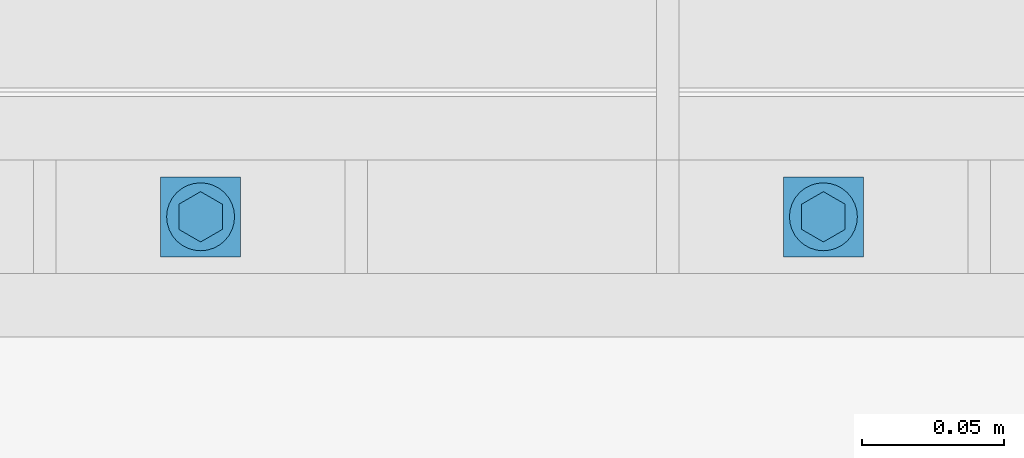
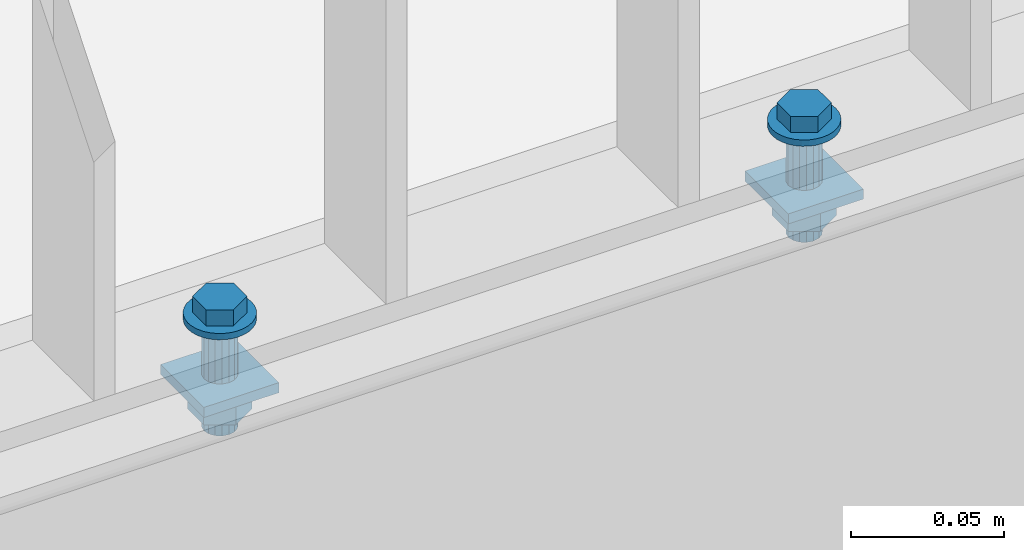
# One storey, part 101 of 145: 2 mechanical fasteners.
"""IFC2X3 building model written with IfcOpenShell, lengths in millimetres."""

from ifc_helpers import new_model, entity, si_unit, converted_unit, origin_with_axes, place, context, project, spatial, faceted_brep, element, save


model = new_model("IFC2X3")

# Units and contexts
model_context = context("Model", 3, precision=1e-09, world=origin_with_axes())
ifc_project = project(units=[si_unit("LENGTHUNIT", "METRE", prefix="MILLI"), si_unit("AREAUNIT", "SQUARE_METRE"), si_unit("VOLUMEUNIT", "CUBIC_METRE"), converted_unit("PLANEANGLEUNIT", "DEGREE", entity("IfcPlaneAngleMeasure", 0.01745329), si_unit("PLANEANGLEUNIT", "RADIAN"), dimensions=[0, 0, 0, 0, 0, 0, 0])], contexts=[model_context])

# Site, building, storey
site_placement = place(None, origin_with_axes())
site = spatial("IfcSite", under=ifc_project, at=site_placement, Name="BZ1 Grund- und Mittelschule 85716 Unterschlei?heim", CompositionType="ELEMENT")
building_placement = place(site_placement, origin_with_axes())
building = spatial("IfcBuilding", under=site, at=building_placement, Name="Struktur 1", CompositionType="ELEMENT")
storey_placement = place(building_placement, origin_with_axes())
storey = spatial("IfcBuildingStorey", under=building, at=storey_placement, Name="Default Storey", CompositionType="ELEMENT", Elevation=0.0)

# Mechanical fasteners
mechanical_fastener_1_placement = place(None, origin_with_axes())
element("IfcMechanicalFastener", 1, at=mechanical_fastener_1_placement, inside=storey, ObjectType="-", NominalDiameter=12.0, NominalLength=45.0, context=model_context, shape_type="Brep", body=[
    faceted_brep([(20541.545893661, -3162.502, 1624.136364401), (20541.545893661, -3162.502, 1621.636364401), (20541.776470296, -3164.843083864, 1621.636364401), (20541.776470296, -3164.843083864, 1624.136364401), (20542.459339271, -3167.094201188, 1621.636364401), (20542.459339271, -3167.094201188, 1624.136364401), (20543.568258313, -3169.168842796, 1621.636364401), (20543.568258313, -3169.168842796, 1624.136364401), (20545.060612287, -3170.987281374, 1621.636364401), (20545.060612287, -3170.987281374, 1624.136364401), (20546.879050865, -3172.479635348, 1621.636364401), (20546.879050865, -3172.479635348, 1624.136364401), (20548.953692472, -3173.58855439, 1621.636364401), (20548.953692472, -3173.58855439, 1624.136364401), (20551.204809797, -3174.271423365, 1621.636364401), (20551.204809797, -3174.271423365, 1624.136364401), (20553.545893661, -3174.502, 1621.636364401), (20553.545893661, -3174.502, 1624.136364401), (20555.886977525, -3174.271423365, 1621.636364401), (20555.886977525, -3174.271423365, 1624.136364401), (20558.138094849, -3173.58855439, 1621.636364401), (20558.138094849, -3173.58855439, 1624.136364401), (20560.212736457, -3172.479635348, 1621.636364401), (20560.212736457, -3172.479635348, 1624.136364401), (20562.031175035, -3170.987281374, 1621.636364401), (20562.031175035, -3170.987281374, 1624.136364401), (20563.523529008, -3169.168842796, 1621.636364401), (20563.523529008, -3169.168842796, 1624.136364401), (20564.632448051, -3167.094201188, 1621.636364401), (20564.632448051, -3167.094201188, 1624.136364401), (20565.315317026, -3164.843083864, 1621.636364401), (20565.315317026, -3164.843083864, 1624.136364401), (20565.545893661, -3162.502, 1621.636364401), (20565.545893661, -3162.502, 1624.136364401), (20565.315317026, -3160.160916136, 1621.636364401), (20565.315317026, -3160.160916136, 1624.136364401), (20564.632448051, -3157.909798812, 1621.636364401), (20564.632448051, -3157.909798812, 1624.136364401), (20563.523529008, -3155.835157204, 1621.636364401), (20563.523529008, -3155.835157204, 1624.136364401), (20562.031175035, -3154.016718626, 1621.636364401), (20562.031175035, -3154.016718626, 1624.136364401), (20560.212736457, -3152.524364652, 1621.636364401), (20560.212736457, -3152.524364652, 1624.136364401), (20558.138094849, -3151.41544561, 1621.636364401), (20558.138094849, -3151.41544561, 1624.136364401), (20555.886977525, -3150.732576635, 1621.636364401), (20555.886977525, -3150.732576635, 1624.136364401), (20553.545893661, -3150.502, 1621.636364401), (20553.545893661, -3150.502, 1624.136364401), (20551.204809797, -3150.732576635, 1621.636364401), (20551.204809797, -3150.732576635, 1624.136364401), (20548.953692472, -3151.41544561, 1621.636364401), (20548.953692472, -3151.41544561, 1624.136364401), (20546.879050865, -3152.524364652, 1621.636364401), (20546.879050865, -3152.524364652, 1624.136364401), (20545.060612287, -3154.016718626, 1621.636364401), (20545.060612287, -3154.016718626, 1624.136364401), (20543.568258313, -3155.835157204, 1621.636364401), (20543.568258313, -3155.835157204, 1624.136364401), (20542.459339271, -3157.909798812, 1621.636364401), (20542.459339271, -3157.909798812, 1624.136364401), (20541.776470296, -3160.160916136, 1621.636364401), (20541.776470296, -3160.160916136, 1624.136364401)], [[[0, 1, 2, 3]], [[3, 2, 4, 5]], [[5, 4, 6, 7]], [[7, 6, 8, 9]], [[9, 8, 10, 11]], [[11, 10, 12, 13]], [[13, 12, 14, 15]], [[15, 14, 16, 17]], [[17, 16, 18, 19]], [[19, 18, 20, 21]], [[21, 20, 22, 23]], [[23, 22, 24, 25]], [[25, 24, 26, 27]], [[27, 26, 28, 29]], [[29, 28, 30, 31]], [[31, 30, 32, 33]], [[33, 32, 34, 35]], [[35, 34, 36, 37]], [[37, 36, 38, 39]], [[39, 38, 40, 41]], [[41, 40, 42, 43]], [[43, 42, 44, 45]], [[45, 44, 46, 47]], [[47, 46, 48, 49]], [[49, 48, 50, 51]], [[51, 50, 52, 53]], [[53, 52, 54, 55]], [[55, 54, 56, 57]], [[57, 56, 58, 59]], [[59, 58, 60, 61]], [[61, 60, 62, 63]], [[63, 62, 1, 0]], [[0, 3, 5, 7, 9, 11, 13, 15, 17, 19, 21, 23, 25, 27, 29, 31, 33, 35, 37, 39, 41, 43, 45, 47, 49, 51, 53, 55, 57, 59, 61, 63]], [[1, 62, 60, 58, 56, 54, 52, 50, 48, 46, 44, 42, 40, 38, 36, 34, 32, 30, 28, 26, 24, 22, 20, 18, 16, 14, 12, 10, 8, 6, 4, 2]]]),
    faceted_brep([(20561.240529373, -3166.9445, 1624.136364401), (20561.240529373, -3166.9445, 1630.536364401), (20553.545893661, -3171.387, 1630.536364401), (20553.545893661, -3171.387, 1624.136364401), (20545.851257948, -3166.9445, 1630.536364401), (20545.851257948, -3166.9445, 1624.136364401), (20545.851257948, -3158.0595, 1630.536364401), (20545.851257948, -3158.0595, 1624.136364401), (20553.545893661, -3153.617, 1630.536364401), (20553.545893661, -3153.617, 1624.136364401), (20561.240529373, -3158.0595, 1630.536364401), (20561.240529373, -3158.0595, 1624.136364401)], [[[0, 1, 2, 3]], [[3, 2, 4, 5]], [[5, 4, 6, 7]], [[7, 6, 8, 9]], [[9, 8, 10, 11]], [[11, 10, 1, 0]], [[4, 2, 1, 10, 8, 6]], [[0, 3, 5, 7, 9, 11]]]),
    faceted_brep([(20547.545893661, -3162.502, 1621.636364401), (20547.545893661, -3162.502, 1599.833658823), (20548.002616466, -3164.798100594, 1599.833658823), (20548.002616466, -3164.798100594, 1621.636364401), (20549.303252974, -3166.744640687, 1599.833658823), (20549.303252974, -3166.744640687, 1621.636364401), (20551.249793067, -3168.045277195, 1599.833658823), (20551.249793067, -3168.045277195, 1621.636364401), (20553.545893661, -3168.502, 1599.833658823), (20553.545893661, -3168.502, 1621.636364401), (20555.841994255, -3168.045277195, 1599.833658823), (20555.841994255, -3168.045277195, 1621.636364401), (20557.788534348, -3166.744640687, 1599.833658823), (20557.788534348, -3166.744640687, 1621.636364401), (20559.089170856, -3164.798100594, 1599.833658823), (20559.089170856, -3164.798100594, 1621.636364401), (20559.545893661, -3162.502, 1599.833658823), (20559.545893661, -3162.502, 1621.636364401), (20559.089170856, -3160.205899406, 1599.833658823), (20559.089170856, -3160.205899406, 1621.636364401), (20557.788534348, -3158.259359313, 1599.833658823), (20557.788534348, -3158.259359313, 1621.636364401), (20555.841994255, -3156.958722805, 1599.833658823), (20555.841994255, -3156.958722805, 1621.636364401), (20553.545893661, -3156.502, 1599.833658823), (20553.545893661, -3156.502, 1621.636364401), (20551.249793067, -3156.958722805, 1599.833658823), (20551.249793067, -3156.958722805, 1621.636364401), (20549.303252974, -3158.259359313, 1599.833658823), (20549.303252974, -3158.259359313, 1621.636364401), (20548.002616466, -3160.205899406, 1599.833658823), (20548.002616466, -3160.205899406, 1621.636364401)], [[[0, 1, 2, 3]], [[3, 2, 4, 5]], [[5, 4, 6, 7]], [[7, 6, 8, 9]], [[9, 8, 10, 11]], [[11, 10, 12, 13]], [[13, 12, 14, 15]], [[15, 14, 16, 17]], [[17, 16, 18, 19]], [[19, 18, 20, 21]], [[21, 20, 22, 23]], [[23, 22, 24, 25]], [[25, 24, 26, 27]], [[27, 26, 28, 29]], [[29, 28, 30, 31]], [[31, 30, 1, 0]], [[0, 3, 5, 7, 9, 11, 13, 15, 17, 19, 21, 23, 25, 27, 29, 31]], [[1, 30, 28, 26, 24, 22, 20, 18, 16, 14, 12, 10, 8, 6, 4, 2]]]),
    faceted_brep([(20567.688029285, -3176.644135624, 1595.833658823), (20567.688029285, -3176.644135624, 1599.833658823), (20539.403758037, -3176.644135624, 1599.833658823), (20539.403758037, -3176.644135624, 1595.833658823), (20539.403758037, -3148.359864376, 1599.833658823), (20539.403758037, -3148.359864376, 1595.833658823), (20567.688029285, -3148.359864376, 1599.833658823), (20567.688029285, -3148.359864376, 1595.833658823)], [[[0, 1, 2, 3]], [[3, 2, 4, 5]], [[5, 4, 6, 7]], [[7, 6, 1, 0]], [[4, 2, 1, 6]], [[0, 3, 5, 7]]]),
    faceted_brep([(20562.682461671, -3167.777, 1585.833658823), (20562.682461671, -3167.777, 1595.833658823), (20553.545893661, -3173.052, 1595.833658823), (20553.545893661, -3173.052, 1585.833658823), (20544.409325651, -3167.777, 1595.833658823), (20544.409325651, -3167.777, 1585.833658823), (20544.409325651, -3157.227, 1595.833658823), (20544.409325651, -3157.227, 1585.833658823), (20553.545893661, -3151.952, 1595.833658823), (20553.545893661, -3151.952, 1585.833658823), (20562.682461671, -3157.227, 1595.833658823), (20562.682461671, -3157.227, 1585.833658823)], [[[0, 1, 2, 3]], [[3, 2, 4, 5]], [[5, 4, 6, 7]], [[7, 6, 8, 9]], [[9, 8, 10, 11]], [[11, 10, 1, 0]], [[4, 2, 1, 10, 8, 6]], [[0, 3, 5, 7, 9, 11]]]),
    faceted_brep([(20547.545893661, -3162.502, 1585.833658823), (20547.545893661, -3162.502, 1579.136364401), (20548.002616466, -3164.798100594, 1579.136364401), (20548.002616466, -3164.798100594, 1585.833658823), (20549.303252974, -3166.744640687, 1579.136364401), (20549.303252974, -3166.744640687, 1585.833658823), (20551.249793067, -3168.045277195, 1579.136364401), (20551.249793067, -3168.045277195, 1585.833658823), (20553.545893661, -3168.502, 1579.136364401), (20553.545893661, -3168.502, 1585.833658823), (20555.841994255, -3168.045277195, 1579.136364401), (20555.841994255, -3168.045277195, 1585.833658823), (20557.788534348, -3166.744640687, 1579.136364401), (20557.788534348, -3166.744640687, 1585.833658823), (20559.089170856, -3164.798100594, 1579.136364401), (20559.089170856, -3164.798100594, 1585.833658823), (20559.545893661, -3162.502, 1579.136364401), (20559.545893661, -3162.502, 1585.833658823), (20559.089170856, -3160.205899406, 1579.136364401), (20559.089170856, -3160.205899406, 1585.833658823), (20557.788534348, -3158.259359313, 1579.136364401), (20557.788534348, -3158.259359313, 1585.833658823), (20555.841994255, -3156.958722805, 1579.136364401), (20555.841994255, -3156.958722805, 1585.833658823), (20553.545893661, -3156.502, 1579.136364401), (20553.545893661, -3156.502, 1585.833658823), (20551.249793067, -3156.958722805, 1579.136364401), (20551.249793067, -3156.958722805, 1585.833658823), (20549.303252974, -3158.259359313, 1579.136364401), (20549.303252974, -3158.259359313, 1585.833658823), (20548.002616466, -3160.205899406, 1579.136364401), (20548.002616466, -3160.205899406, 1585.833658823)], [[[0, 1, 2, 3]], [[3, 2, 4, 5]], [[5, 4, 6, 7]], [[7, 6, 8, 9]], [[9, 8, 10, 11]], [[11, 10, 12, 13]], [[13, 12, 14, 15]], [[15, 14, 16, 17]], [[17, 16, 18, 19]], [[19, 18, 20, 21]], [[21, 20, 22, 23]], [[23, 22, 24, 25]], [[25, 24, 26, 27]], [[27, 26, 28, 29]], [[29, 28, 30, 31]], [[31, 30, 1, 0]], [[0, 3, 5, 7, 9, 11, 13, 15, 17, 19, 21, 23, 25, 27, 29, 31]], [[1, 30, 28, 26, 24, 22, 20, 18, 16, 14, 12, 10, 8, 6, 4, 2]]]),
])
mechanical_fastener_2_placement = place(None, origin_with_axes())
element("IfcMechanicalFastener", 2, at=mechanical_fastener_2_placement, inside=storey, ObjectType="-", NominalDiameter=12.0, NominalLength=45.0, context=model_context, shape_type="Brep", body=[
    faceted_brep([(20761.545893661, -3162.502, 1624.136364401), (20761.545893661, -3162.502, 1621.636364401), (20761.776470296, -3164.843083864, 1621.636364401), (20761.776470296, -3164.843083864, 1624.136364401), (20762.459339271, -3167.094201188, 1621.636364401), (20762.459339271, -3167.094201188, 1624.136364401), (20763.568258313, -3169.168842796, 1621.636364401), (20763.568258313, -3169.168842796, 1624.136364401), (20765.060612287, -3170.987281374, 1621.636364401), (20765.060612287, -3170.987281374, 1624.136364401), (20766.879050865, -3172.479635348, 1621.636364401), (20766.879050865, -3172.479635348, 1624.136364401), (20768.953692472, -3173.58855439, 1621.636364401), (20768.953692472, -3173.58855439, 1624.136364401), (20771.204809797, -3174.271423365, 1621.636364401), (20771.204809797, -3174.271423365, 1624.136364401), (20773.545893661, -3174.502, 1621.636364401), (20773.545893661, -3174.502, 1624.136364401), (20775.886977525, -3174.271423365, 1621.636364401), (20775.886977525, -3174.271423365, 1624.136364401), (20778.138094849, -3173.58855439, 1621.636364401), (20778.138094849, -3173.58855439, 1624.136364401), (20780.212736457, -3172.479635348, 1621.636364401), (20780.212736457, -3172.479635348, 1624.136364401), (20782.031175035, -3170.987281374, 1621.636364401), (20782.031175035, -3170.987281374, 1624.136364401), (20783.523529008, -3169.168842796, 1621.636364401), (20783.523529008, -3169.168842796, 1624.136364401), (20784.632448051, -3167.094201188, 1621.636364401), (20784.632448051, -3167.094201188, 1624.136364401), (20785.315317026, -3164.843083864, 1621.636364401), (20785.315317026, -3164.843083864, 1624.136364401), (20785.545893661, -3162.502, 1621.636364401), (20785.545893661, -3162.502, 1624.136364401), (20785.315317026, -3160.160916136, 1621.636364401), (20785.315317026, -3160.160916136, 1624.136364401), (20784.632448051, -3157.909798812, 1621.636364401), (20784.632448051, -3157.909798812, 1624.136364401), (20783.523529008, -3155.835157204, 1621.636364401), (20783.523529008, -3155.835157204, 1624.136364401), (20782.031175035, -3154.016718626, 1621.636364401), (20782.031175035, -3154.016718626, 1624.136364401), (20780.212736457, -3152.524364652, 1621.636364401), (20780.212736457, -3152.524364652, 1624.136364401), (20778.138094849, -3151.41544561, 1621.636364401), (20778.138094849, -3151.41544561, 1624.136364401), (20775.886977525, -3150.732576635, 1621.636364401), (20775.886977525, -3150.732576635, 1624.136364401), (20773.545893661, -3150.502, 1621.636364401), (20773.545893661, -3150.502, 1624.136364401), (20771.204809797, -3150.732576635, 1621.636364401), (20771.204809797, -3150.732576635, 1624.136364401), (20768.953692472, -3151.41544561, 1621.636364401), (20768.953692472, -3151.41544561, 1624.136364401), (20766.879050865, -3152.524364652, 1621.636364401), (20766.879050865, -3152.524364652, 1624.136364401), (20765.060612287, -3154.016718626, 1621.636364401), (20765.060612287, -3154.016718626, 1624.136364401), (20763.568258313, -3155.835157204, 1621.636364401), (20763.568258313, -3155.835157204, 1624.136364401), (20762.459339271, -3157.909798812, 1621.636364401), (20762.459339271, -3157.909798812, 1624.136364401), (20761.776470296, -3160.160916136, 1621.636364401), (20761.776470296, -3160.160916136, 1624.136364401)], [[[0, 1, 2, 3]], [[3, 2, 4, 5]], [[5, 4, 6, 7]], [[7, 6, 8, 9]], [[9, 8, 10, 11]], [[11, 10, 12, 13]], [[13, 12, 14, 15]], [[15, 14, 16, 17]], [[17, 16, 18, 19]], [[19, 18, 20, 21]], [[21, 20, 22, 23]], [[23, 22, 24, 25]], [[25, 24, 26, 27]], [[27, 26, 28, 29]], [[29, 28, 30, 31]], [[31, 30, 32, 33]], [[33, 32, 34, 35]], [[35, 34, 36, 37]], [[37, 36, 38, 39]], [[39, 38, 40, 41]], [[41, 40, 42, 43]], [[43, 42, 44, 45]], [[45, 44, 46, 47]], [[47, 46, 48, 49]], [[49, 48, 50, 51]], [[51, 50, 52, 53]], [[53, 52, 54, 55]], [[55, 54, 56, 57]], [[57, 56, 58, 59]], [[59, 58, 60, 61]], [[61, 60, 62, 63]], [[63, 62, 1, 0]], [[0, 3, 5, 7, 9, 11, 13, 15, 17, 19, 21, 23, 25, 27, 29, 31, 33, 35, 37, 39, 41, 43, 45, 47, 49, 51, 53, 55, 57, 59, 61, 63]], [[1, 62, 60, 58, 56, 54, 52, 50, 48, 46, 44, 42, 40, 38, 36, 34, 32, 30, 28, 26, 24, 22, 20, 18, 16, 14, 12, 10, 8, 6, 4, 2]]]),
    faceted_brep([(20781.240529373, -3166.9445, 1624.136364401), (20781.240529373, -3166.9445, 1630.536364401), (20773.545893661, -3171.387, 1630.536364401), (20773.545893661, -3171.387, 1624.136364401), (20765.851257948, -3166.9445, 1630.536364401), (20765.851257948, -3166.9445, 1624.136364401), (20765.851257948, -3158.0595, 1630.536364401), (20765.851257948, -3158.0595, 1624.136364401), (20773.545893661, -3153.617, 1630.536364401), (20773.545893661, -3153.617, 1624.136364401), (20781.240529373, -3158.0595, 1630.536364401), (20781.240529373, -3158.0595, 1624.136364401)], [[[0, 1, 2, 3]], [[3, 2, 4, 5]], [[5, 4, 6, 7]], [[7, 6, 8, 9]], [[9, 8, 10, 11]], [[11, 10, 1, 0]], [[4, 2, 1, 10, 8, 6]], [[0, 3, 5, 7, 9, 11]]]),
    faceted_brep([(20767.545893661, -3162.502, 1621.636364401), (20767.545893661, -3162.502, 1599.833658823), (20768.002616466, -3164.798100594, 1599.833658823), (20768.002616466, -3164.798100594, 1621.636364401), (20769.303252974, -3166.744640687, 1599.833658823), (20769.303252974, -3166.744640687, 1621.636364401), (20771.249793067, -3168.045277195, 1599.833658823), (20771.249793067, -3168.045277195, 1621.636364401), (20773.545893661, -3168.502, 1599.833658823), (20773.545893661, -3168.502, 1621.636364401), (20775.841994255, -3168.045277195, 1599.833658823), (20775.841994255, -3168.045277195, 1621.636364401), (20777.788534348, -3166.744640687, 1599.833658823), (20777.788534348, -3166.744640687, 1621.636364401), (20779.089170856, -3164.798100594, 1599.833658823), (20779.089170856, -3164.798100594, 1621.636364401), (20779.545893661, -3162.502, 1599.833658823), (20779.545893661, -3162.502, 1621.636364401), (20779.089170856, -3160.205899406, 1599.833658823), (20779.089170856, -3160.205899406, 1621.636364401), (20777.788534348, -3158.259359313, 1599.833658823), (20777.788534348, -3158.259359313, 1621.636364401), (20775.841994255, -3156.958722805, 1599.833658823), (20775.841994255, -3156.958722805, 1621.636364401), (20773.545893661, -3156.502, 1599.833658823), (20773.545893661, -3156.502, 1621.636364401), (20771.249793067, -3156.958722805, 1599.833658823), (20771.249793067, -3156.958722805, 1621.636364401), (20769.303252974, -3158.259359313, 1599.833658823), (20769.303252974, -3158.259359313, 1621.636364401), (20768.002616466, -3160.205899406, 1599.833658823), (20768.002616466, -3160.205899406, 1621.636364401)], [[[0, 1, 2, 3]], [[3, 2, 4, 5]], [[5, 4, 6, 7]], [[7, 6, 8, 9]], [[9, 8, 10, 11]], [[11, 10, 12, 13]], [[13, 12, 14, 15]], [[15, 14, 16, 17]], [[17, 16, 18, 19]], [[19, 18, 20, 21]], [[21, 20, 22, 23]], [[23, 22, 24, 25]], [[25, 24, 26, 27]], [[27, 26, 28, 29]], [[29, 28, 30, 31]], [[31, 30, 1, 0]], [[0, 3, 5, 7, 9, 11, 13, 15, 17, 19, 21, 23, 25, 27, 29, 31]], [[1, 30, 28, 26, 24, 22, 20, 18, 16, 14, 12, 10, 8, 6, 4, 2]]]),
    faceted_brep([(20787.688029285, -3176.644135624, 1595.833658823), (20787.688029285, -3176.644135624, 1599.833658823), (20759.403758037, -3176.644135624, 1599.833658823), (20759.403758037, -3176.644135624, 1595.833658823), (20759.403758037, -3148.359864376, 1599.833658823), (20759.403758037, -3148.359864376, 1595.833658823), (20787.688029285, -3148.359864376, 1599.833658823), (20787.688029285, -3148.359864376, 1595.833658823)], [[[0, 1, 2, 3]], [[3, 2, 4, 5]], [[5, 4, 6, 7]], [[7, 6, 1, 0]], [[4, 2, 1, 6]], [[0, 3, 5, 7]]]),
    faceted_brep([(20782.682461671, -3167.777, 1585.833658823), (20782.682461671, -3167.777, 1595.833658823), (20773.545893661, -3173.052, 1595.833658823), (20773.545893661, -3173.052, 1585.833658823), (20764.409325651, -3167.777, 1595.833658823), (20764.409325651, -3167.777, 1585.833658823), (20764.409325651, -3157.227, 1595.833658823), (20764.409325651, -3157.227, 1585.833658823), (20773.545893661, -3151.952, 1595.833658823), (20773.545893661, -3151.952, 1585.833658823), (20782.682461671, -3157.227, 1595.833658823), (20782.682461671, -3157.227, 1585.833658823)], [[[0, 1, 2, 3]], [[3, 2, 4, 5]], [[5, 4, 6, 7]], [[7, 6, 8, 9]], [[9, 8, 10, 11]], [[11, 10, 1, 0]], [[4, 2, 1, 10, 8, 6]], [[0, 3, 5, 7, 9, 11]]]),
    faceted_brep([(20767.545893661, -3162.502, 1585.833658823), (20767.545893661, -3162.502, 1579.136364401), (20768.002616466, -3164.798100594, 1579.136364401), (20768.002616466, -3164.798100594, 1585.833658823), (20769.303252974, -3166.744640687, 1579.136364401), (20769.303252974, -3166.744640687, 1585.833658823), (20771.249793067, -3168.045277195, 1579.136364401), (20771.249793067, -3168.045277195, 1585.833658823), (20773.545893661, -3168.502, 1579.136364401), (20773.545893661, -3168.502, 1585.833658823), (20775.841994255, -3168.045277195, 1579.136364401), (20775.841994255, -3168.045277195, 1585.833658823), (20777.788534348, -3166.744640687, 1579.136364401), (20777.788534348, -3166.744640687, 1585.833658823), (20779.089170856, -3164.798100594, 1579.136364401), (20779.089170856, -3164.798100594, 1585.833658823), (20779.545893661, -3162.502, 1579.136364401), (20779.545893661, -3162.502, 1585.833658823), (20779.089170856, -3160.205899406, 1579.136364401), (20779.089170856, -3160.205899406, 1585.833658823), (20777.788534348, -3158.259359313, 1579.136364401), (20777.788534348, -3158.259359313, 1585.833658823), (20775.841994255, -3156.958722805, 1579.136364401), (20775.841994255, -3156.958722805, 1585.833658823), (20773.545893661, -3156.502, 1579.136364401), (20773.545893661, -3156.502, 1585.833658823), (20771.249793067, -3156.958722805, 1579.136364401), (20771.249793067, -3156.958722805, 1585.833658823), (20769.303252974, -3158.259359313, 1579.136364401), (20769.303252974, -3158.259359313, 1585.833658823), (20768.002616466, -3160.205899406, 1579.136364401), (20768.002616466, -3160.205899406, 1585.833658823)], [[[0, 1, 2, 3]], [[3, 2, 4, 5]], [[5, 4, 6, 7]], [[7, 6, 8, 9]], [[9, 8, 10, 11]], [[11, 10, 12, 13]], [[13, 12, 14, 15]], [[15, 14, 16, 17]], [[17, 16, 18, 19]], [[19, 18, 20, 21]], [[21, 20, 22, 23]], [[23, 22, 24, 25]], [[25, 24, 26, 27]], [[27, 26, 28, 29]], [[29, 28, 30, 31]], [[31, 30, 1, 0]], [[0, 3, 5, 7, 9, 11, 13, 15, 17, 19, 21, 23, 25, 27, 29, 31]], [[1, 30, 28, 26, 24, 22, 20, 18, 16, 14, 12, 10, 8, 6, 4, 2]]]),
])

save(model, "model.ifc")
